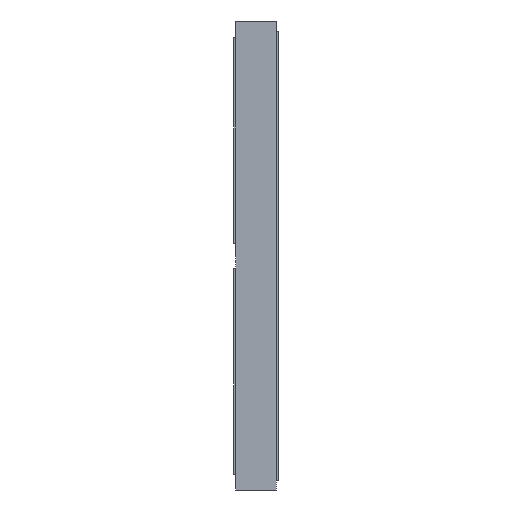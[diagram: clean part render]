
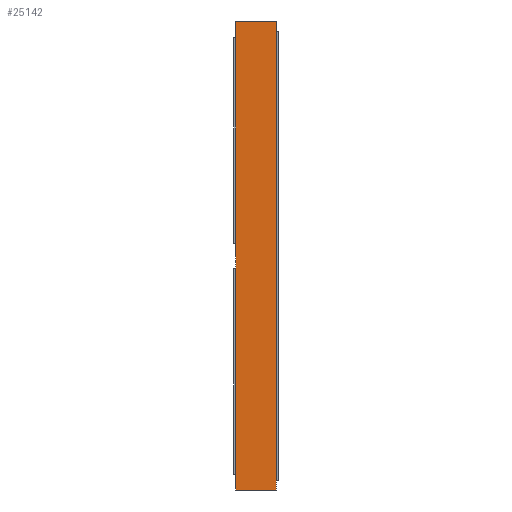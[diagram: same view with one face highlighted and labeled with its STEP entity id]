
A CAD part, left-side view. The second image highlights one B-rep face of the part: STEP entity #25142.
In plain terms, the highlighted planar face has unit normal (-1, 0, 0).
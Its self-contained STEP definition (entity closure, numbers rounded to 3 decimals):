
#1171 = DIRECTION ( 'NONE',  ( 0., 0., 1. ) ) ;
#1510 = ORIENTED_EDGE ( 'NONE', *, *, #71687, .T. ) ;
#2071 = LINE ( 'NONE', #67638, #13674 ) ;
#3852 = CARTESIAN_POINT ( 'NONE',  ( -102., 0.65, -3.75 ) ) ;
#4431 = LINE ( 'NONE', #40869, #64816 ) ;
#6166 = VERTEX_POINT ( 'NONE', #64562 ) ;
#7260 = CARTESIAN_POINT ( 'NONE',  ( -102., 0., -3.75 ) ) ;
#8137 = ORIENTED_EDGE ( 'NONE', *, *, #9621, .T. ) ;
#9072 = DIRECTION ( 'NONE',  ( 0., 0., -1. ) ) ;
#9621 = EDGE_CURVE ( 'NONE', #70338, #48214, #70769, .T. ) ;
#10820 = CARTESIAN_POINT ( 'NONE',  ( -102., 0.65, -3.75 ) ) ;
#12440 = DIRECTION ( 'NONE',  ( 0., -1., 0. ) ) ;
#13674 = VECTOR ( 'NONE', #39662, 1000. ) ;
#15562 = DIRECTION ( 'NONE',  ( 1., 0., 0. ) ) ;
#23588 = CARTESIAN_POINT ( 'NONE',  ( -102., 0., -3.75 ) ) ;
#23741 = VECTOR ( 'NONE', #12440, 1000. ) ;
#25142 = ADVANCED_FACE ( 'NONE', ( #38727 ), #65677, .F. ) ;
#26939 = VERTEX_POINT ( 'NONE', #47363 ) ;
#33579 = ORIENTED_EDGE ( 'NONE', *, *, #50272, .F. ) ;
#36555 = EDGE_LOOP ( 'NONE', ( #1510, #33579, #36942, #8137 ) ) ;
#36942 = ORIENTED_EDGE ( 'NONE', *, *, #67167, .F. ) ;
#38727 = FACE_OUTER_BOUND ( 'NONE', #36555, .T. ) ;
#39662 = DIRECTION ( 'NONE',  ( 0., -1., 0. ) ) ;
#40869 = CARTESIAN_POINT ( 'NONE',  ( -102., 0.65, -3.75 ) ) ;
#47363 = CARTESIAN_POINT ( 'NONE',  ( -102., 0., 3.75 ) ) ;
#48214 = VERTEX_POINT ( 'NONE', #7260 ) ;
#50272 = EDGE_CURVE ( 'NONE', #6166, #26939, #2071, .T. ) ;
#58356 = VECTOR ( 'NONE', #1171, 1000. ) ;
#63035 = CARTESIAN_POINT ( 'NONE',  ( -102., 0.65, -3.75 ) ) ;
#63627 = DIRECTION ( 'NONE',  ( 0., 0., 1. ) ) ;
#64562 = CARTESIAN_POINT ( 'NONE',  ( -102., 0.65, 3.75 ) ) ;
#64816 = VECTOR ( 'NONE', #63627, 1000. ) ;
#65677 = PLANE ( 'NONE',  #70038 ) ;
#67167 = EDGE_CURVE ( 'NONE', #70338, #6166, #4431, .T. ) ;
#67638 = CARTESIAN_POINT ( 'NONE',  ( -102., 0.65, 3.75 ) ) ;
#70038 = AXIS2_PLACEMENT_3D ( 'NONE', #3852, #15562, #9072 ) ;
#70338 = VERTEX_POINT ( 'NONE', #10820 ) ;
#70763 = LINE ( 'NONE', #23588, #58356 ) ;
#70769 = LINE ( 'NONE', #63035, #23741 ) ;
#71687 = EDGE_CURVE ( 'NONE', #48214, #26939, #70763, .T. ) ;
